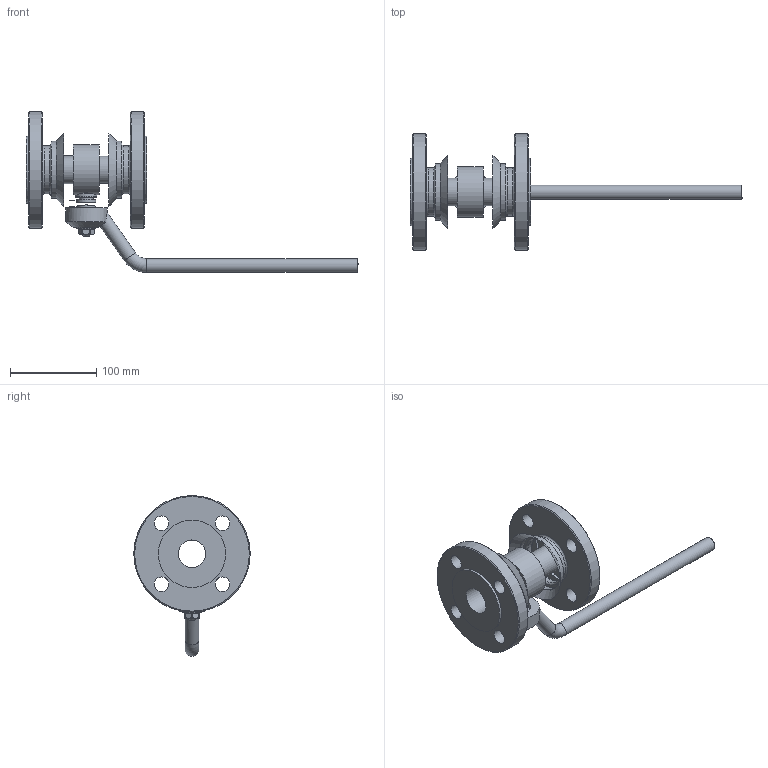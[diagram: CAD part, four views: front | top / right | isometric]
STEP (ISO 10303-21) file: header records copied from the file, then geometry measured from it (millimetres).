
FILE_DESCRIPTION(('STEP AP203'), '1');
FILE_NAME('ZARDP 032.016.21.P.stp', '2013-12-06T06:03:17', ('User'), ('Computer'), 'ASCON STEP Converter 1.3', 'Kompas 3D', '');
FILE_SCHEMA(('CONFIG_CONTROL_DESIGN','SUPPORT_RESOURCE_SCHEMA'));
Length unit declared in the file: millimetre
Products named in the file (1): 28
Bounding box: 385.01 x 135 x 186.5 mm (x, y, z)
Surface area: 142098.6 mm2
Topology: 6 solids, 7 shells, 173 faces, 375 edges, 236 vertices
Faces by surface type: plane 80, cylinder 60, cone 21, torus 12
Full cylindrical faces by diameter (mm): 6 x2, 10 x2, 16 x3, 16.1 x1, 17 x8, 21.8 x1, 22 x2, 24.3 x1, 24.5 x1, 32 x2, 48 x1, 56 x2, 58.4 x1, 66 x2, 78 x2, 84.5 x1, 135 x2
Entity records: 6114 total; most frequent: CARTESIAN_POINT 2154, DIRECTION 845, ORIENTED_EDGE 748, EDGE_CURVE 375, AXIS2_PLACEMENT_3D 339, VERTEX_POINT 236, EDGE_LOOP 216, ADVANCED_FACE 173
